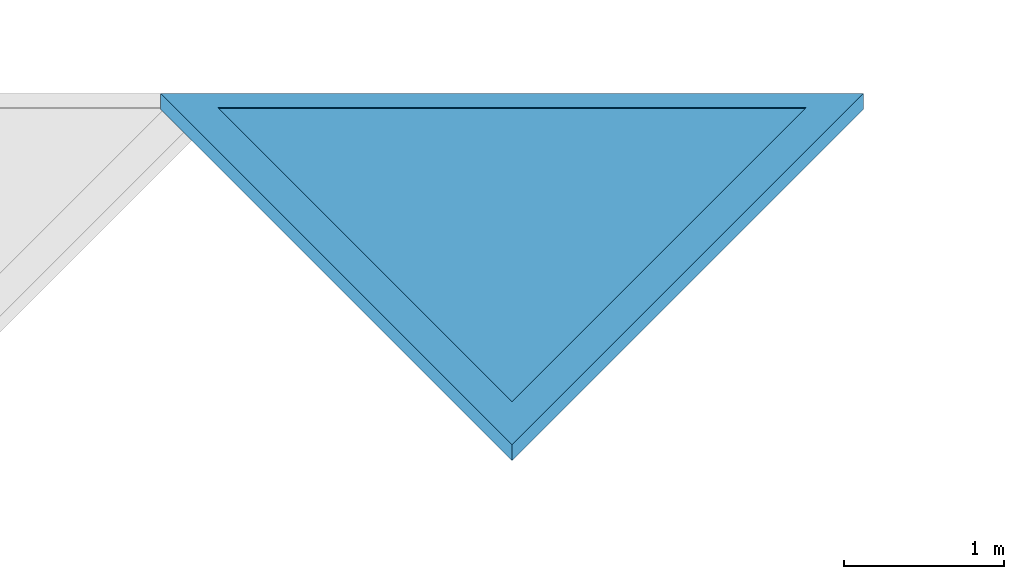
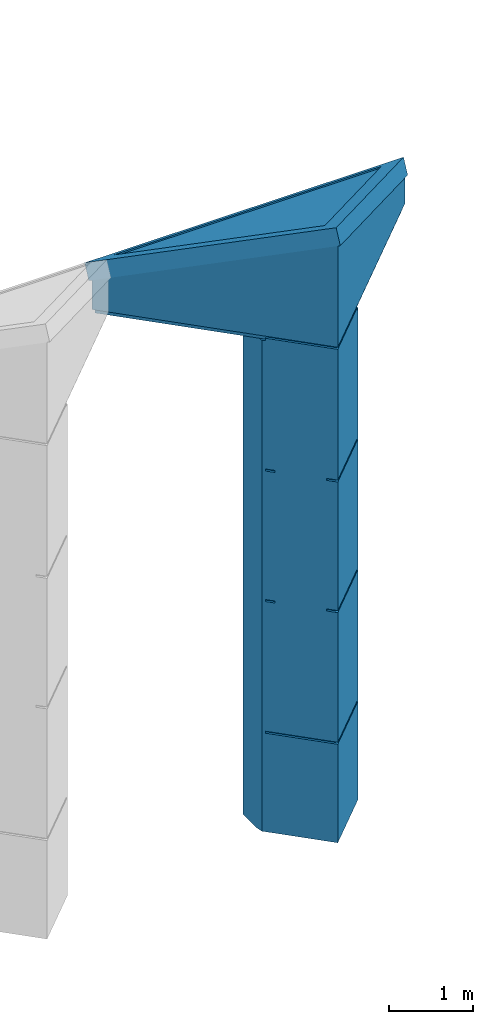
# One storey, part 9 of 13: 1 wall.
"""IFC4 building model written with IfcOpenShell, lengths in metres."""

import ifcopenshell
import ifcopenshell.guid

model = None  # the IFC model being written
_history = None  # IfcOwnerHistory: only IFC2X3 demands one
_inside = {}  # id of a spatial element -> (the spatial element, [elements in it])
_under = {}  # id of a project, library or spatial element -> (it, [spatial elements below it])
_declared = {}  # id of a project -> (the project, [libraries it declares])
_typed = {}  # id of a type object -> (the type object, [elements of that type])
_made_of = {}  # id of a material, layer set ... -> (it, [elements and type objects made of it])


def new_model(schema):
    """Start an empty IFC model of exactly this schema.

    Asked for "IFC4X3", IfcOpenShell would pick the latest addendum, in which some entities
    have other attributes; the version numbers below select the first issue.
    IFC2X3 requires an IfcOwnerHistory on every rooted entity: one is made here for all.
    """
    global model, _history
    if schema == "IFC4X3":
        model = ifcopenshell.file(schema_version=(4, 3, 0, 0))
    else:
        model = ifcopenshell.file(schema=schema)
    _inside.clear()
    _under.clear()
    _declared.clear()
    _typed.clear()
    _made_of.clear()
    _history = None
    if model.schema == "IFC2X3":
        org = make("IfcOrganization", Name="unknown")
        user = make(
            "IfcPersonAndOrganization",
            ThePerson=make("IfcPerson", FamilyName="unknown"),
            TheOrganization=org,
        )
        app = make(
            "IfcApplication",
            ApplicationDeveloper=org,
            Version="unknown",
            ApplicationFullName="unknown",
            ApplicationIdentifier="unknown",
        )
        _history = make(
            "IfcOwnerHistory",
            OwningUser=user,
            OwningApplication=app,
            ChangeAction="ADDED",
            CreationDate=0,
        )
    return model


def make(cls, **values):
    """One entity of the class cls with the attributes given. An attribute that is None is left unset."""
    return model.create_entity(
        cls, **{name: value for name, value in values.items() if value is not None}
    )


def entity(cls, *values):
    """Any entity or typed value of the class cls, its attributes in the order of the schema. None: left unset."""
    e = model.create_entity(cls)
    for i, value in enumerate(values):
        if value is not None:
            e[i] = value
    return e


def rooted(cls, **values):
    """An entity with a GlobalId (a new one), such as an element, a storey or a relation."""
    return make(cls, GlobalId=ifcopenshell.guid.new(), OwnerHistory=_history, **values)


def si_unit(unit_type, name, prefix=None):
    """IfcSIUnit, for example si_unit("LENGTHUNIT", "METRE", prefix="MILLI")."""
    return make("IfcSIUnit", UnitType=unit_type, Prefix=prefix, Name=name)


def converted_unit(unit_type, name, factor, base, dimensions=None, offset=None):
    """IfcConversionBasedUnit, such as the inch: factor (a typed value) times the base unit."""
    return make(
        "IfcConversionBasedUnit"
        if offset is None
        else "IfcConversionBasedUnitWithOffset",
        ConversionOffset=offset,
        Dimensions=None
        if dimensions is None
        else entity("IfcDimensionalExponents", *dimensions),
        UnitType=unit_type,
        Name=name,
        ConversionFactor=make(
            "IfcMeasureWithUnit", ValueComponent=factor, UnitComponent=base
        ),
    )


def derived_unit(unit_type, elements):
    """IfcDerivedUnit: a product of units, each with its exponent."""
    return make(
        "IfcDerivedUnit",
        Elements=[
            make("IfcDerivedUnitElement", Unit=unit, Exponent=power)
            for unit, power in elements
        ],
        UnitType=unit_type,
    )


def assignment(units):
    """IfcUnitAssignment: the units of a project."""
    return None if units is None else make("IfcUnitAssignment", Units=units)


def point(xyz):
    """IfcCartesianPoint."""
    return None if xyz is None else make("IfcCartesianPoint", Coordinates=xyz)


def direction(xyz):
    """IfcDirection."""
    return None if xyz is None else make("IfcDirection", DirectionRatios=xyz)


def frame(location, z_axis=None, x_axis=None):
    """IfcAxis2Placement3D, a coordinate frame: its origin and axes. An axis left out is left unset."""
    return make(
        "IfcAxis2Placement3D",
        Location=point(location),
        Axis=direction(z_axis),
        RefDirection=direction(x_axis),
    )


def origin():
    """The frame at (0, 0, 0) with its axes left unset."""
    return frame((0.0, 0.0, 0.0))


def place(relative_to, where):
    """IfcLocalPlacement: puts the frame where relative to a parent placement (None: the world)."""
    return make(
        "IfcLocalPlacement", PlacementRelTo=relative_to, RelativePlacement=where
    )


def context(
    kind, dimensions, precision=None, world=None, true_north=None, identifier=None
):
    """IfcGeometricRepresentationContext, for example the 3D "Model" context."""
    return make(
        "IfcGeometricRepresentationContext",
        ContextIdentifier=identifier,
        ContextType=kind,
        CoordinateSpaceDimension=dimensions,
        Precision=precision,
        WorldCoordinateSystem=world,
        TrueNorth=true_north,
    )


def subcontext(parent, identifier, kind, view, scale=None):
    """IfcGeometricRepresentationSubContext, for example "Body" below "Model"."""
    return make(
        "IfcGeometricRepresentationSubContext",
        ContextIdentifier=identifier,
        ContextType=kind,
        ParentContext=parent,
        TargetScale=scale,
        TargetView=view,
    )


def project(units=None, contexts=None):
    """IfcProject with its units and contexts."""
    return rooted(
        "IfcProject",
        Name="project",
        RepresentationContexts=contexts,
        UnitsInContext=assignment(units),
    )


def spatial(cls, under=None, at=None, **own):
    """A site, building, storey or space (cls), placed at a placement, below another one or the project."""
    s = rooted(cls, ObjectPlacement=at, **own)
    if under is not None:
        _under.setdefault(under.id(), (under, []))[1].append(s)
    return s


def point_list(points):
    """IfcCartesianPointList2D or 3D."""
    cls = (
        "IfcCartesianPointList2D" if len(points[0]) == 2 else "IfcCartesianPointList3D"
    )
    return make(cls, CoordList=points)


def polygons(points, faces, closed=None, point_numbers=None):
    """IfcPolygonalFaceSet: a face is its outer loop, then its inner loops; points numbered from 1."""
    made = []
    for loops in faces:
        if len(loops) == 1:
            made.append(make("IfcIndexedPolygonalFace", CoordIndex=loops[0]))
        else:
            made.append(
                make(
                    "IfcIndexedPolygonalFaceWithVoids",
                    CoordIndex=loops[0],
                    InnerCoordIndices=loops[1:],
                )
            )
    return make(
        "IfcPolygonalFaceSet",
        Coordinates=point_list(points),
        Closed=closed,
        Faces=made,
        PnIndex=point_numbers,
    )


def shape(context_of_items, identifier, shape_type, items):
    """IfcShapeRepresentation: the items that make up one representation, for example the "Body"."""
    return make(
        "IfcShapeRepresentation",
        ContextOfItems=context_of_items,
        RepresentationIdentifier=identifier,
        RepresentationType=shape_type,
        Items=items,
    )


def material(Name=None, Category=None):
    """IfcMaterial."""
    return make("IfcMaterial", Name=Name, Category=Category)


def made_of(thing, what):
    """Note that an element or type object is made of a material, layer set ...; save() writes the relation."""
    if what is not None:
        _made_of.setdefault(what.id(), (what, []))[1].append(thing)
    return thing


def type_object(cls, material=None, **own):
    """A type object (cls), such as IfcWallType, which elements share."""
    return made_of(rooted(cls, **own), material)


def element(
    cls,
    number,
    at=None,
    inside=None,
    cuts=None,
    type_object=None,
    material=None,
    context=None,
    identifier="Body",
    shape_type=None,
    held_by="IfcProductDefinitionShape",
    body=None,
    shapes=None,
    **own,
):
    """One element of the class cls, such as IfcWall. Its Tag is "e" and its number.

    at: its placement. inside: the storey or other place that contains it. cuts: it is an
    opening in that element (IfcRelVoidsElement). A single representation is given by context,
    identifier, shape_type and body (its items); several are given by shapes. held_by: the class
    of the entity that holds the representations. save() writes the other relations.
    """
    e = rooted(cls, Tag="e%d" % number, ObjectPlacement=at, **own)
    if body is not None:
        shapes = [shape(context, identifier, shape_type, body)]
    if shapes is not None:
        e.Representation = make(held_by, Representations=shapes)
    if inside is not None:
        _inside.setdefault(inside.id(), (inside, []))[1].append(e)
    if cuts is not None:
        rooted(
            "IfcRelVoidsElement", RelatingBuildingElement=cuts, RelatedOpeningElement=e
        )
    if type_object is not None:
        _typed.setdefault(type_object.id(), (type_object, []))[1].append(e)
    return made_of(e, material)


def aggregate(whole, parts):
    """IfcRelAggregates: a whole, such as a stair, and the parts it consists of."""
    return rooted("IfcRelAggregates", RelatingObject=whole, RelatedObjects=parts)


def save(model, path):
    """Write the relations noted so far, then the file.

    IfcRelAggregates (storeys below a building ...), IfcRelContainedInSpatialStructure (elements
    in a storey), IfcRelDefinesByType, IfcRelAssociatesMaterial and IfcRelDeclares: one each for
    every whole, place, type object, material and project.
    """
    for whole, parts in _under.values():
        aggregate(whole, parts)
    for where, things in _inside.values():
        rooted(
            "IfcRelContainedInSpatialStructure",
            RelatedElements=things,
            RelatingStructure=where,
        )
    for kind, things in _typed.values():
        rooted("IfcRelDefinesByType", RelatedObjects=things, RelatingType=kind)
    for what, things in _made_of.values():
        rooted("IfcRelAssociatesMaterial", RelatedObjects=things, RelatingMaterial=what)
    for by, libraries in _declared.values():
        rooted("IfcRelDeclares", RelatingContext=by, RelatedDefinitions=libraries)
    model.write(path)


model = new_model("IFC4")

# Units and contexts
model_context = context("Model", 3, precision=1e-05, world=origin(), true_north=direction((6.12303176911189e-17, 1.0)))
body_context = subcontext(model_context, "Body", "Model", "MODEL_VIEW")
ifc_project = project(units=[si_unit("LENGTHUNIT", "METRE"), si_unit("AREAUNIT", "SQUARE_METRE"), si_unit("VOLUMEUNIT", "CUBIC_METRE"), converted_unit("PLANEANGLEUNIT", "DEGREE", entity("IfcRatioMeasure", 0.0174532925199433), si_unit("PLANEANGLEUNIT", "RADIAN"), dimensions=[0, 0, 0, 0, 0, 0, 0]), si_unit("MASSUNIT", "GRAM", prefix="KILO"), derived_unit("MASSDENSITYUNIT", [(si_unit("MASSUNIT", "GRAM", prefix="KILO"), 1), (si_unit("LENGTHUNIT", "METRE"), -3)]), derived_unit("MOMENTOFINERTIAUNIT", [(si_unit("LENGTHUNIT", "METRE"), 4)]), si_unit("TIMEUNIT", "SECOND"), si_unit("FREQUENCYUNIT", "HERTZ"), si_unit("THERMODYNAMICTEMPERATUREUNIT", "DEGREE_CELSIUS"), derived_unit("THERMALTRANSMITTANCEUNIT", [(si_unit("MASSUNIT", "GRAM", prefix="KILO"), 1), (si_unit("THERMODYNAMICTEMPERATUREUNIT", "KELVIN"), -1), (si_unit("TIMEUNIT", "SECOND"), -3)]), derived_unit("VOLUMETRICFLOWRATEUNIT", [(si_unit("LENGTHUNIT", "METRE"), 3), (si_unit("TIMEUNIT", "SECOND"), -1)]), si_unit("ELECTRICCURRENTUNIT", "AMPERE"), si_unit("ELECTRICVOLTAGEUNIT", "VOLT"), si_unit("POWERUNIT", "WATT"), si_unit("FORCEUNIT", "NEWTON", prefix="KILO"), si_unit("ILLUMINANCEUNIT", "LUX"), si_unit("LUMINOUSFLUXUNIT", "LUMEN"), si_unit("LUMINOUSINTENSITYUNIT", "CANDELA"), derived_unit("USERDEFINED", [(si_unit("MASSUNIT", "GRAM", prefix="KILO"), -1), (si_unit("LENGTHUNIT", "METRE"), -2), (si_unit("TIMEUNIT", "SECOND"), 3), (si_unit("LUMINOUSFLUXUNIT", "LUMEN"), 1)]), derived_unit("LINEARVELOCITYUNIT", [(si_unit("LENGTHUNIT", "METRE"), 1), (si_unit("TIMEUNIT", "SECOND"), -1)]), si_unit("PRESSUREUNIT", "PASCAL"), derived_unit("USERDEFINED", [(si_unit("LENGTHUNIT", "METRE"), -2), (si_unit("MASSUNIT", "GRAM", prefix="KILO"), 1), (si_unit("TIMEUNIT", "SECOND"), -2)]), derived_unit("LINEARFORCEUNIT", [(si_unit("MASSUNIT", "GRAM", prefix="KILO"), 1), (si_unit("LENGTHUNIT", "METRE"), 1), (si_unit("TIMEUNIT", "SECOND"), -2), (si_unit("LENGTHUNIT", "METRE"), -1)]), derived_unit("PLANARFORCEUNIT", [(si_unit("MASSUNIT", "GRAM", prefix="KILO"), 1), (si_unit("LENGTHUNIT", "METRE"), 1), (si_unit("TIMEUNIT", "SECOND"), -2), (si_unit("LENGTHUNIT", "METRE"), -2)])], contexts=[model_context])

# Site, building, storey
site_placement = place(None, origin())
site = spatial("IfcSite", under=ifc_project, at=site_placement, Name="Default", CompositionType="ELEMENT")
building_placement = place(site_placement, origin())
building = spatial("IfcBuilding", under=site, at=building_placement, Name="HOTEL CONSULAIRE BOULOGNE SUR MER", CompositionType="ELEMENT")
storey_placement = place(building_placement, frame((0.0, 0.0, -1.40419978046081)))
storey = spatial("IfcBuildingStorey", under=building, at=storey_placement, Name="Demi-niveau", CompositionType="ELEMENT", Elevation=-1.40419978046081)

# Wall
ifc_material = material(Name="alu finifion bleu")
wall_type = type_object("IfcWallType", Name="mur-rideau1:mur-rideau", PredefinedType="NOTDEFINED", material=ifc_material)
wall_placement = place(storey_placement, frame((16.81241570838, -30.5788994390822, 1.30218564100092)))
element("IfcWall", 1, at=wall_placement, inside=storey, type_object=wall_type, material=ifc_material, Name="mur-rideau1:mur-rideau", ObjectType="mur-rideau1:mur-rideau", PredefinedType="NOTDEFINED", context=body_context, shape_type="Tessellation", body=[
    polygons([(1.49106216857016, 0.790695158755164, 3.38395977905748e-17), (1.49106216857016, 0.890832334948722, 3.38395977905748e-17), (2.85300784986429, 0.890832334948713, 3.38395977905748e-17), (2.85300784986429, 0.790695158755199, 3.38395977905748e-17), (2.83436833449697, 0.68652729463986, 3.38395977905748e-17), (2.17203500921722, 0.0241939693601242, 3.38395977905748e-17), (1.50970168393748, 0.686527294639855, 3.38395977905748e-17), (1.49106216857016, 0.790695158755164, 0.0600000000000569), (1.50970168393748, 0.686527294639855, 0.0600000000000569), (2.17203500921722, 0.0241939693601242, 0.0600000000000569), (2.83436833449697, 0.68652729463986, 0.0600000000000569), (2.85300784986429, 0.790695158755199, 0.0600000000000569), (2.85300784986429, 0.890832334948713, 0.0600000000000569), (1.49106216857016, 0.890832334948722, 0.0600000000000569)], [[[5, 6, 7, 1, 2, 3, 4]], [[14, 8, 9, 10, 11, 12, 13]], [[9, 8, 1, 7]], [[10, 9, 7, 6]], [[11, 10, 6, 5]], [[12, 11, 5, 4]], [[13, 12, 4, 3]], [[14, 13, 3, 2]], [[8, 14, 2, 1]]], closed=True),
    polygons([(0.170311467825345, 2.0687264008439, 7.23875566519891), (0.0703114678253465, 2.1687264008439, 7.23875566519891), (0.236423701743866, 2.1687264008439, 7.23875566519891), (0.336423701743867, 2.0687264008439, 7.23875566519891), (0.170311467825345, 2.0687264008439, 7.68575566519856), (0.336423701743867, 2.0687264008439, 7.68575566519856), (0.236423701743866, 2.1687264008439, 7.68575566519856), (0.0703114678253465, 2.1687264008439, 7.68575566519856)], [[[3, 4, 1, 2]], [[8, 5, 6, 7]], [[6, 5, 1, 4]], [[7, 6, 4, 3]], [[8, 7, 3, 2]], [[5, 8, 2, 1]]], closed=True),
    polygons([(3.975768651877, 2.06872640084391, 7.68575566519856), (4.18468977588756, 2.06872640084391, 7.68575566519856), (4.28468977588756, 2.16872640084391, 7.68575566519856), (4.075768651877, 2.16872640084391, 7.68575566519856), (3.975768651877, 2.06872640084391, 7.23875566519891), (4.075768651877, 2.16872640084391, 7.23875566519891), (4.28468977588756, 2.16872640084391, 7.23875566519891), (4.18468977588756, 2.06872640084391, 7.23875566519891)], [[[4, 1, 2, 3]], [[7, 8, 5, 6]], [[2, 1, 5, 8]], [[3, 2, 8, 7]], [[4, 3, 7, 6]], [[1, 4, 6, 5]]], closed=True),
    polygons([(2.15609617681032, 0.249053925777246, 8.67713638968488), (2.07304005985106, 0.165997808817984, 8.67713638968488), (2.17750062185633, 0.0615372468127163, 8.67713638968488), (2.2605567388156, 0.14459336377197, 8.67713638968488), (2.15609617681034, 0.249053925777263, 7.23875566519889), (2.26055673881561, 0.144593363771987, 7.23875566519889), (2.17750062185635, 0.0615372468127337, 7.23875566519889), (2.07304005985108, 0.165997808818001, 7.23875566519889)], [[[4, 1, 2, 3]], [[7, 8, 5, 6]], [[2, 1, 5, 8]], [[3, 2, 8, 7]], [[4, 3, 7, 6]], [[1, 4, 6, 5]]], closed=True),
    polygons([(2.17750062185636, 0.061537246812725, 7.23875566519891), (4.28468977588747, 2.16872640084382, 7.23875566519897), (0.0703114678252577, 2.16872640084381, 7.23875566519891), (0.336423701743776, 2.06872640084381, 7.23875566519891), (3.97576865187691, 2.06872640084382, 7.23875566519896), (2.15609617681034, 0.249053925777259, 7.23875566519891), (2.17750062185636, 0.061537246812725, 7.13875566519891), (0.0703114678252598, 2.16872640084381, 7.13875566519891), (4.28468977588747, 2.16872640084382, 7.13875566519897), (0.336423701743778, 2.06872640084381, 7.13875566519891), (2.15609617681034, 0.249053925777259, 7.13875566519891), (3.97576865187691, 2.06872640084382, 7.13875566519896)], [[[1, 2, 3], [4, 5, 6]], [[8, 9, 7], [12, 10, 11]], [[2, 1, 7, 9]], [[1, 3, 8, 7]], [[6, 5, 12, 11]], [[4, 6, 11, 10]], [[3, 2, 9, 8]], [[5, 4, 10, 12]]], closed=True),
    polygons([(2.1928416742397, 0.344441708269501, 8.71182457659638), (0.35526622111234, 2.18201716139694, 7.81401991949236), (4.03041712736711, 2.18201716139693, 7.81401991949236), (2.1928416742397, 0.360055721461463, 8.74378244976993), (4.03041712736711, 2.19763117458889, 7.84597779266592), (0.35526622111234, 2.1976311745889, 7.84597779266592)], [[[3, 1, 2]], [[4, 5, 6]], [[5, 4, 1, 3]], [[6, 5, 3, 2]], [[4, 6, 2, 1]]], closed=True),
    polygons([(0.0, 2.29137199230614, 7.81880128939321), (2.19284167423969, 0.0985303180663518, 8.89018231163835), (4.38568334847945, 2.29137199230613, 7.81880128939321), (2.19284167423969, 0.367401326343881, 8.75881701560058), (0.355266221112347, 2.20497677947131, 7.86101235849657), (4.0304171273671, 2.2049767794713, 7.86101235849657), (0.0, 2.19284167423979, 7.61713504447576), (4.38568334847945, 2.19284167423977, 7.61713504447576), (2.19284167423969, 0.0, 8.6885160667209), (2.19284167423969, 0.268871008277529, 8.55715077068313), (4.0304171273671, 2.10644646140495, 7.65934611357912), (0.355266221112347, 2.10644646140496, 7.65934611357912)], [[[1, 2, 3], [6, 4, 5]], [[8, 9, 7], [11, 12, 10]], [[2, 1, 7, 9]], [[3, 2, 9, 8]], [[1, 3, 8, 7]], [[5, 4, 10, 12]], [[6, 5, 12, 11]], [[4, 6, 11, 10]]], closed=True),
    polygons([(2.19343945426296, 0.0455984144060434, 1.43200000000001), (2.19343945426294, 0.045598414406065, 0.0450000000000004), (2.80335892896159, 0.655517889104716, 0.0450000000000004), (2.80335892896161, 0.655517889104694, 1.43199999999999), (2.17203500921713, 0.0670028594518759, 1.43200000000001), (2.78195448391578, 0.676922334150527, 1.43199999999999), (2.78195448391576, 0.676922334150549, 0.0450000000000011), (2.1720350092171, 0.0670028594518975, 0.045000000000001)], [[[4, 1, 2, 3]], [[7, 8, 5, 6]], [[1, 4, 6, 5]], [[4, 3, 7, 6]], [[3, 2, 8, 7]], [[2, 1, 5, 8]]], closed=True),
    polygons([(4.34177858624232, 2.23674643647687, 7.20400000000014), (2.17203500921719, 0.0670028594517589, 7.20400000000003), (2.17203500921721, 0.0670028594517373, 8.67723077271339), (4.34177858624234, 2.23674643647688, 7.61713504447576), (4.36318303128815, 2.21534199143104, 7.20400000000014), (4.36318303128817, 2.21534199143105, 7.61713504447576), (2.19343945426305, 0.0455984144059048, 8.67723077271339), (2.19343945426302, 0.0455984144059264, 7.20400000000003)], [[[1, 2, 3, 4]], [[6, 7, 8, 5]], [[6, 5, 1, 4]], [[7, 6, 4, 3]], [[8, 7, 3, 2]], [[5, 8, 2, 1]]], closed=True),
    polygons([(2.17203500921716, 0.0670028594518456, 3.346), (2.78195448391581, 0.676922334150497, 3.346), (2.78195448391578, 0.676922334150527, 1.462), (2.17203500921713, 0.0670028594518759, 1.462), (2.19343945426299, 0.045598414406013, 3.346), (2.19343945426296, 0.0455984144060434, 1.462), (2.80335892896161, 0.655517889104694, 1.462), (2.80335892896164, 0.655517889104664, 3.346)], [[[3, 4, 1, 2]], [[8, 5, 6, 7]], [[5, 8, 2, 1]], [[8, 7, 3, 2]], [[7, 6, 4, 3]], [[6, 5, 1, 4]]], closed=True),
    polygons([(2.78195448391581, 0.676922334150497, 3.37600000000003), (2.17203500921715, 0.0670028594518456, 3.37600000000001), (2.17203500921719, 0.0670028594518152, 5.24404165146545), (2.78195448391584, 0.676922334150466, 5.24404165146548), (2.80335892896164, 0.655517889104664, 3.37600000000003), (2.80335892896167, 0.655517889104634, 5.24404165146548), (2.19343945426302, 0.0455984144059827, 5.24404165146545), (2.19343945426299, 0.045598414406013, 3.37600000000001)], [[[1, 2, 3, 4]], [[6, 7, 8, 5]], [[6, 5, 1, 4]], [[7, 6, 4, 3]], [[8, 7, 3, 2]], [[5, 8, 2, 1]]], closed=True),
    polygons([(2.78195448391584, 0.676922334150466, 5.27404165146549), (2.17203500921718, 0.0670028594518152, 5.27404165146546), (2.17203500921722, 0.0670028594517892, 7.17400000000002), (2.78195448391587, 0.676922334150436, 7.17400000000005), (2.80335892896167, 0.655517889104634, 5.27404165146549), (2.80335892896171, 0.655517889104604, 7.17400000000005), (2.19343945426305, 0.0455984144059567, 7.17400000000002), (2.19343945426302, 0.0455984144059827, 5.27404165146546)], [[[1, 2, 3, 4]], [[6, 7, 8, 5]], [[6, 5, 1, 4]], [[7, 6, 4, 3]], [[8, 7, 3, 2]], [[5, 8, 2, 1]]], closed=True),
    polygons([(2.59994112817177, 0.692898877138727, 5.28904165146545), (2.70440169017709, 0.588438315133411, 5.28904165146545), (2.70440169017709, 0.588438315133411, 5.22904165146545), (2.59994112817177, 0.692898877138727, 5.22904165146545), (2.14972786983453, 0.242685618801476, 5.28904165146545), (2.14972786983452, 0.242685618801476, 5.22904165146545), (2.25418843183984, 0.138225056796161, 5.22904165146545), (2.25418843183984, 0.138225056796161, 5.28904165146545)], [[[3, 4, 1, 2]], [[8, 5, 6, 7]], [[6, 5, 1, 4]], [[7, 6, 4, 3]], [[8, 7, 3, 2]], [[5, 8, 2, 1]]], closed=True),
    polygons([(2.17113231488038, 0.221281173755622, 0.0599999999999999), (2.17113231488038, 0.221281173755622, 0.0), (2.24872281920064, 0.143690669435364, 0.0), (2.24872281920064, 0.143690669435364, 0.0599999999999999), (2.62134557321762, 0.671494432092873, 0.0599999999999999), (2.69893607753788, 0.593903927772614, 0.0599999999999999), (2.69893607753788, 0.593903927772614, 0.0), (2.62134557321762, 0.671494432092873, 0.0)], [[[4, 1, 2, 3]], [[7, 8, 5, 6]], [[2, 1, 5, 8]], [[3, 2, 8, 7]], [[4, 3, 7, 6]], [[1, 4, 6, 5]]], closed=True),
    polygons([(2.62134557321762, 0.671494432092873, 1.477), (2.69893607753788, 0.593903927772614, 1.477), (2.69893607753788, 0.593903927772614, 1.417), (2.62134557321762, 0.671494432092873, 1.417), (2.17113231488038, 0.221281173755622, 1.477), (2.17113231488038, 0.221281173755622, 1.417), (2.24872281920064, 0.143690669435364, 1.417), (2.24872281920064, 0.143690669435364, 1.477)], [[[3, 4, 1, 2]], [[8, 5, 6, 7]], [[6, 5, 1, 4]], [[7, 6, 4, 3]], [[8, 7, 3, 2]], [[5, 8, 2, 1]]], closed=True),
    polygons([(2.59994112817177, 0.692898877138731, 3.391), (2.70440169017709, 0.588438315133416, 3.391), (2.70440169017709, 0.588438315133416, 3.331), (2.59994112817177, 0.692898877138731, 3.331), (2.14972786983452, 0.242685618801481, 3.391), (2.14972786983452, 0.242685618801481, 3.331), (2.25418843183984, 0.138225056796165, 3.331), (2.25418843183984, 0.138225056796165, 3.391)], [[[3, 4, 1, 2]], [[8, 5, 6, 7]], [[6, 5, 1, 4]], [[7, 6, 4, 3]], [[8, 7, 3, 2]], [[5, 8, 2, 1]]], closed=True),
    polygons([(0.0275025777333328, 2.16872640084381, 7.20400000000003), (2.17293770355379, 0.0232912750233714, 7.20400000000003), (2.17293770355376, 0.0232912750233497, 8.6771363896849), (0.0275025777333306, 2.1687264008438, 7.62891731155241), (0.0489070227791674, 2.19013084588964, 7.20400000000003), (0.0489070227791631, 2.19013084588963, 7.62891731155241), (2.19434214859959, 0.0446957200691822, 8.6771363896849), (2.19434214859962, 0.0446957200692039, 7.20400000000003)], [[[2, 3, 4, 1]], [[5, 6, 7, 8]], [[2, 1, 5, 8]], [[3, 2, 8, 7]], [[4, 3, 7, 6]], [[1, 4, 6, 5]]], closed=True),
    polygons([(2.19434214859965, 0.0446957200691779, 7.17400000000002), (2.19434214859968, 0.0446957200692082, 5.27404165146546), (1.56211553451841, 0.676922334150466, 5.27404165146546), (1.56211553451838, 0.676922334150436, 7.17400000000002), (2.17293770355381, 0.0232912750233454, 7.17400000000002), (1.54071108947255, 0.655517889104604, 7.17400000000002), (1.54071108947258, 0.655517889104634, 5.27404165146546), (2.17293770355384, 0.0232912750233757, 5.27404165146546)], [[[3, 4, 1, 2]], [[8, 5, 6, 7]], [[6, 5, 1, 4]], [[7, 6, 4, 3]], [[8, 7, 3, 2]], [[5, 8, 2, 1]]], closed=True),
    polygons([(2.19434214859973, 0.0446957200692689, 1.43200000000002), (2.19434214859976, 0.0446957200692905, 0.0450000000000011), (1.56211553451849, 0.676922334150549, 0.0450000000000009), (1.56211553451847, 0.676922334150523, 1.43199999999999), (2.1729377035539, 0.0232912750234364, 1.43200000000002), (1.54071108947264, 0.65551788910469, 1.43199999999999), (1.54071108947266, 0.655517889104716, 0.0450000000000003), (2.17293770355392, 0.0232912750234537, 0.0450000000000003)], [[[3, 4, 1, 2]], [[8, 5, 6, 7]], [[6, 5, 1, 4]], [[7, 6, 4, 3]], [[8, 7, 3, 2]], [[5, 8, 2, 1]]], closed=True),
    polygons([(2.1943421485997, 0.0446957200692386, 3.346), (2.19434214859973, 0.0446957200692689, 1.462), (1.56211553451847, 0.676922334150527, 1.462), (1.56211553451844, 0.676922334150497, 3.346), (2.17293770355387, 0.023291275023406, 3.346), (1.54071108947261, 0.655517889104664, 3.346), (1.54071108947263, 0.655517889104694, 1.462), (2.1729377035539, 0.0232912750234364, 1.462)], [[[3, 4, 1, 2]], [[8, 5, 6, 7]], [[6, 5, 1, 4]], [[7, 6, 4, 3]], [[8, 7, 3, 2]], [[5, 8, 2, 1]]], closed=True),
    polygons([(2.19434214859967, 0.0446957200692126, 5.24404165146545), (2.1943421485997, 0.0446957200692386, 3.37600000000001), (1.56211553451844, 0.676922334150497, 3.37600000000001), (1.56211553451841, 0.676922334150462, 5.24404165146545), (2.17293770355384, 0.0232912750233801, 5.24404165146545), (1.54071108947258, 0.655517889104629, 5.24404165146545), (1.54071108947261, 0.655517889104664, 3.37600000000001), (2.17293770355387, 0.023291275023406, 3.37600000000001)], [[[3, 4, 1, 2]], [[8, 5, 6, 7]], [[6, 5, 1, 4]], [[7, 6, 4, 3]], [[8, 7, 3, 2]], [[5, 8, 2, 1]]], closed=True),
    polygons([(1.62372949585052, 0.572499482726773, 5.28904165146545), (1.72819005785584, 0.676960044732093, 5.28904165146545), (1.72819005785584, 0.676960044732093, 5.22904165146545), (1.62372949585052, 0.572499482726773, 5.22904165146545), (2.07394275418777, 0.122286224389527, 5.28904165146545), (2.07394275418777, 0.122286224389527, 5.22904165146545), (2.17840331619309, 0.226746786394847, 5.22904165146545), (2.17840331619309, 0.226746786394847, 5.28904165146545)], [[[3, 4, 1, 2]], [[8, 5, 6, 7]], [[6, 5, 1, 4]], [[7, 6, 4, 3]], [[8, 7, 3, 2]], [[5, 8, 2, 1]]], closed=True),
    polygons([(2.09534719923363, 0.143690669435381, 0.0599999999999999), (2.09534719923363, 0.143690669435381, 0.0), (2.17293770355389, 0.22128117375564, 0.0), (2.17293770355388, 0.22128117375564, 0.0599999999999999), (1.64513394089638, 0.593903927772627, 0.0599999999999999), (1.72272444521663, 0.671494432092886, 0.0599999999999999), (1.72272444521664, 0.671494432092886, 0.0), (1.64513394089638, 0.593903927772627, 0.0)], [[[4, 1, 2, 3]], [[7, 8, 5, 6]], [[2, 1, 5, 8]], [[3, 2, 8, 7]], [[4, 3, 7, 6]], [[1, 4, 6, 5]]], closed=True),
    polygons([(1.64513394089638, 0.593903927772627, 1.477), (1.72272444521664, 0.671494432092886, 1.477), (1.72272444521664, 0.671494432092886, 1.417), (1.64513394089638, 0.593903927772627, 1.417), (2.09534719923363, 0.143690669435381, 1.477), (2.09534719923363, 0.143690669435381, 1.417), (2.17293770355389, 0.22128117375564, 1.417), (2.17293770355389, 0.22128117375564, 1.477)], [[[3, 4, 1, 2]], [[8, 5, 6, 7]], [[6, 5, 1, 4]], [[7, 6, 4, 3]], [[8, 7, 3, 2]], [[5, 8, 2, 1]]], closed=True),
    polygons([(1.62372949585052, 0.572499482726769, 3.391), (1.72819005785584, 0.676960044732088, 3.391), (1.72819005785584, 0.676960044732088, 3.331), (1.62372949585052, 0.572499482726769, 3.331), (2.07394275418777, 0.122286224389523, 3.391), (2.07394275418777, 0.122286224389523, 3.331), (2.17840331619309, 0.226746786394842, 3.331), (2.17840331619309, 0.226746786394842, 3.391)], [[[3, 4, 1, 2]], [[8, 5, 6, 7]], [[6, 5, 1, 4]], [[7, 6, 4, 3]], [[8, 7, 3, 2]], [[5, 8, 2, 1]]], closed=True),
    polygons([(1.49106216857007, 1.09783233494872, 0.0), (1.67106216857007, 1.09783233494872, 0.0), (1.67106216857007, 0.891832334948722, 0.0), (1.7014710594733, 0.721890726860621, 0.0), (1.73729589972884, 0.686065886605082, 0.0), (1.64513394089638, 0.593903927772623, 0.0), (1.56211553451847, 0.676922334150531, 0.0), (1.54071108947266, 0.655517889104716, 0.0), (1.50970168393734, 0.686527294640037, 0.0), (1.49106216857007, 0.790695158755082, 0.0), (1.49106216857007, 1.09783233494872, 7.13875566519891), (1.49106216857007, 0.790695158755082, 7.13875566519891), (1.50970168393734, 0.686527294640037, 7.13875566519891), (1.54071108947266, 0.655517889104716, 7.13875566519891), (1.56211553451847, 0.676922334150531, 7.13875566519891), (1.64513394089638, 0.593903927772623, 7.13875566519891), (1.73729589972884, 0.686065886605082, 7.13875566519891), (1.7014710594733, 0.721890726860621, 7.13875566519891), (1.67106216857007, 0.891832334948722, 7.13875566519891), (1.67106216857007, 1.09783233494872, 7.13875566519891)], [[[8, 9, 10, 1, 2, 3, 4, 5, 6, 7]], [[11, 12, 13, 14, 15, 16, 17, 18, 19, 20]], [[12, 11, 1, 10]], [[13, 12, 10, 9]], [[19, 18, 4, 3]], [[20, 19, 3, 2]], [[11, 20, 2, 1]], [[16, 15, 7, 6]], [[14, 13, 9, 8]], [[17, 16, 6, 5]], [[15, 14, 8, 7]], [[18, 17, 5, 4]]], closed=True),
    polygons([(2.24872281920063, 0.143690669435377, 7.13875566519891), (2.17203500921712, 0.220378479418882, 7.13875566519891), (2.09534719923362, 0.143690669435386, 7.13875566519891), (2.17203500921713, 0.0670028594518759, 7.13875566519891), (2.24872281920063, 0.143690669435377, 0.0), (2.17203500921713, 0.0670028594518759, 0.0), (2.09534719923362, 0.143690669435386, 0.0), (2.17203500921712, 0.220378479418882, 0.0)], [[[2, 3, 4, 1]], [[5, 6, 7, 8]], [[2, 1, 5, 8]], [[3, 2, 8, 7]], [[4, 3, 7, 6]], [[1, 4, 6, 5]]], closed=True),
    polygons([(2.85300784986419, 1.09783233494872, 7.13875566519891), (2.67300784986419, 1.09783233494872, 7.13875566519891), (2.67300784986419, 0.891832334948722, 7.13875566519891), (2.64259895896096, 0.721890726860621, 7.13875566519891), (2.60677411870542, 0.686065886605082, 7.13875566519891), (2.69893607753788, 0.593903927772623, 7.13875566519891), (2.78195448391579, 0.676922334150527, 7.13875566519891), (2.8033589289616, 0.655517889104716, 7.13875566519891), (2.83436833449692, 0.686527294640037, 7.13875566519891), (2.85300784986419, 0.790695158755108, 7.13875566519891), (2.85300784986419, 1.09783233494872, 0.0), (2.85300784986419, 0.790695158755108, 0.0), (2.83436833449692, 0.686527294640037, 0.0), (2.8033589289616, 0.655517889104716, 0.0), (2.78195448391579, 0.676922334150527, 0.0), (2.69893607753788, 0.593903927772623, 0.0), (2.60677411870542, 0.686065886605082, 0.0), (2.64259895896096, 0.721890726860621, 0.0), (2.67300784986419, 0.891832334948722, 0.0), (2.67300784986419, 1.09783233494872, 0.0)], [[[1, 2, 3, 4, 5, 6, 7, 8, 9, 10]], [[15, 16, 17, 18, 19, 20, 11, 12, 13, 14]], [[2, 1, 11, 20]], [[3, 2, 20, 19]], [[4, 3, 19, 18]], [[5, 4, 18, 17]], [[6, 5, 17, 16]], [[8, 7, 15, 14]], [[7, 6, 16, 15]], [[9, 8, 14, 13]], [[10, 9, 13, 12]], [[1, 10, 12, 11]]], closed=True),
])

save(model, "model.ifc")
